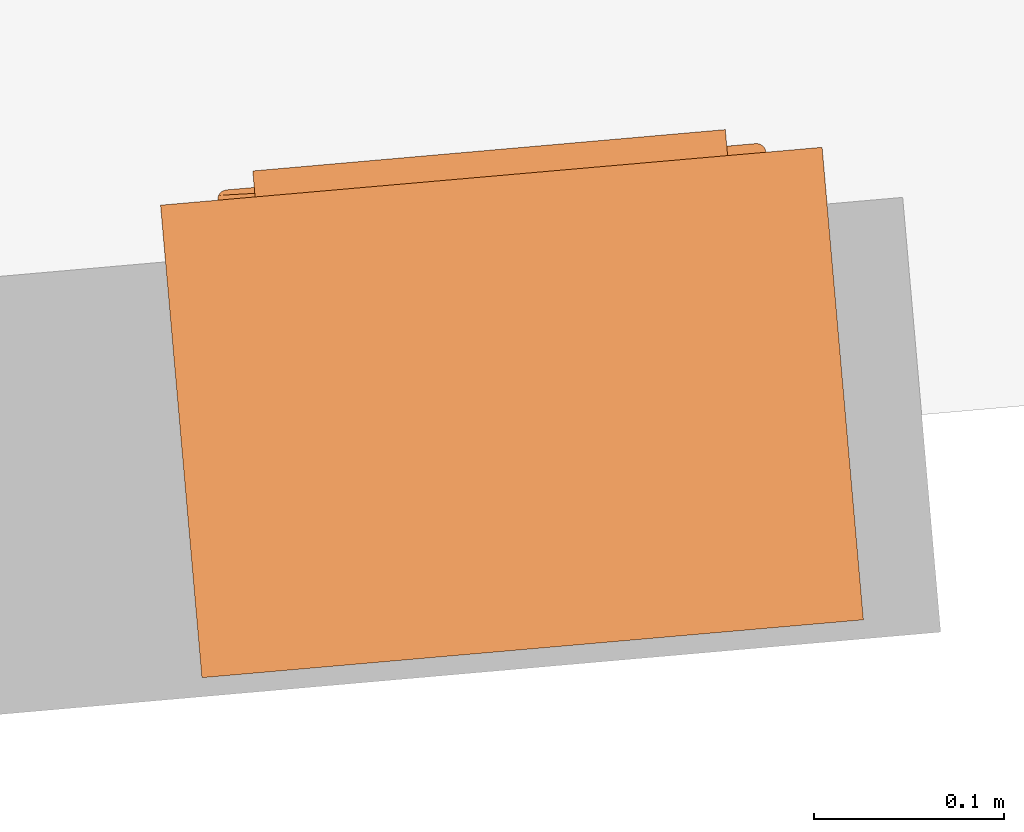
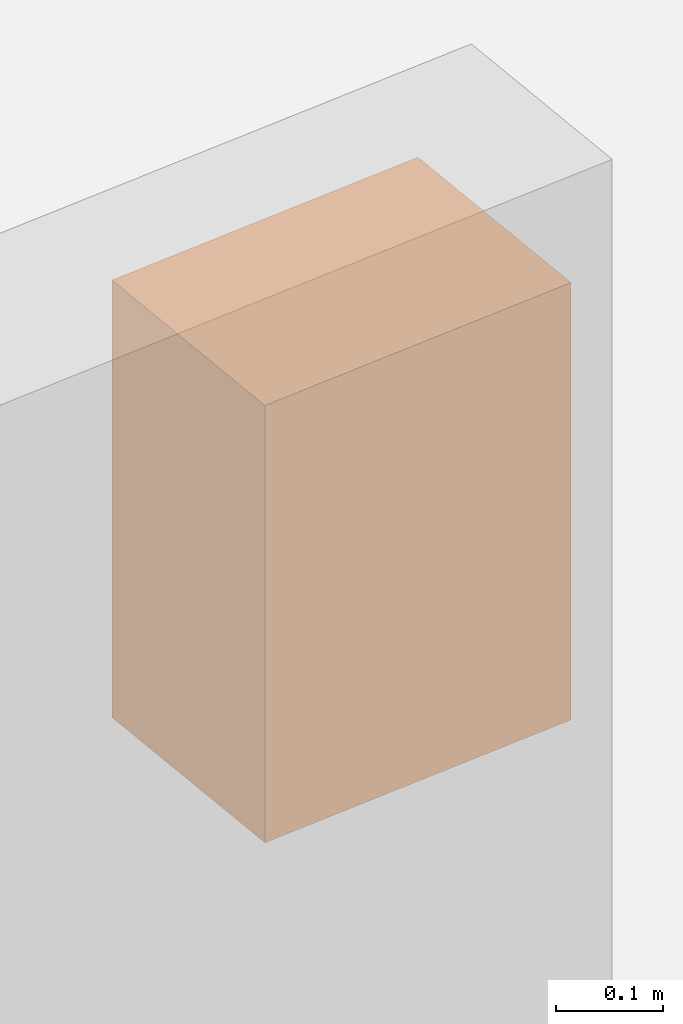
# One storey, part 33 of 33: 1 proxy.
"""IFC2X3 building model written with IfcOpenShell, lengths in metres."""

from ifc_helpers import new_model, entity, si_unit, converted_unit, derived_unit, direction, frame, origin, place, context, subcontext, project, spatial, faceted_brep, source, transform, mapped, material, material_list, element, save


model = new_model("IFC2X3")

# Units and contexts
model_context = context("Model", 3, precision=1e-05, world=origin(), true_north=direction((6.12303176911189e-17, 1.0)))
context_of_model = context(None, 3, precision=1e-05, world=origin(), true_north=direction((6.12303176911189e-17, 1.0)))
body_context = subcontext(model_context, "Body", "Model", "MODEL_VIEW")
ifc_project = project(units=[si_unit("LENGTHUNIT", "METRE"), si_unit("AREAUNIT", "SQUARE_METRE"), si_unit("VOLUMEUNIT", "CUBIC_METRE"), converted_unit("PLANEANGLEUNIT", "DEGREE", entity("IfcRatioMeasure", 0.0174532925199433), si_unit("PLANEANGLEUNIT", "RADIAN"), dimensions=[0, 0, 0, 0, 0, 0, 0]), si_unit("MASSUNIT", "GRAM", prefix="KILO"), si_unit("TIMEUNIT", "SECOND"), si_unit("FREQUENCYUNIT", "HERTZ"), si_unit("THERMODYNAMICTEMPERATUREUNIT", "DEGREE_CELSIUS"), derived_unit("THERMALTRANSMITTANCEUNIT", [(si_unit("MASSUNIT", "GRAM", prefix="KILO"), 1), (si_unit("THERMODYNAMICTEMPERATUREUNIT", "KELVIN"), -1), (si_unit("TIMEUNIT", "SECOND"), -3)]), derived_unit("VOLUMETRICFLOWRATEUNIT", [(si_unit("LENGTHUNIT", "METRE"), 3), (si_unit("TIMEUNIT", "SECOND"), -1)]), si_unit("ELECTRICCURRENTUNIT", "AMPERE"), si_unit("ELECTRICVOLTAGEUNIT", "VOLT"), si_unit("POWERUNIT", "WATT"), si_unit("FORCEUNIT", "NEWTON", prefix="KILO"), si_unit("ILLUMINANCEUNIT", "LUX"), si_unit("LUMINOUSFLUXUNIT", "LUMEN"), si_unit("LUMINOUSINTENSITYUNIT", "CANDELA"), si_unit("PRESSUREUNIT", "PASCAL")], contexts=[model_context, context_of_model])

# Site, building, storey
site_placement = place(None, origin())
site = spatial("IfcSite", under=ifc_project, at=site_placement, Name="Surface", CompositionType="ELEMENT")
building_placement = place(site_placement, origin())
building = spatial("IfcBuilding", under=site, at=building_placement, CompositionType="ELEMENT")
storey_placement = place(building_placement, origin())
storey = spatial("IfcBuildingStorey", under=building, at=storey_placement, Name="Plan des fondations  Maisons 1 et 2", CompositionType="ELEMENT", Elevation=0.0)

# Proxy
ifc_material_1 = material(Name="Peinture - Noir brillant")
ifc_material_2 = material(Name="Peinture - Gris")
ifc_material_list = material_list([ifc_material_1, ifc_material_2])
shared_shape = source(origin(), body_context, "Body", "Brep", [
    faceted_brep([(0.0397134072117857, 0.0137388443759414, 0.0549999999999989), (0.0397134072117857, 0.0137388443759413, 0.133076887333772), (0.0395430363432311, 0.0124447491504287, 0.0548296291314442), (0.0397134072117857, 0.0137388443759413, 0.280961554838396), (0.0397134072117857, 0.0137388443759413, 0.320000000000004), (0.0395430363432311, 0.0124447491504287, 0.320170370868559), (0.0347134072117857, 0.0087388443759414, 0.325000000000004), (0.0334193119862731, 0.00890921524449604, 0.326294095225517), (0.0343532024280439, 0.00875183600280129, 0.272372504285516), (0.0397134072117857, 0.0137388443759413, 0.211153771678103), (0.0343715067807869, 0.00875054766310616, 0.155288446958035), (0.0297134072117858, 0.0137388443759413, 0.251923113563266), (0.0303832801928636, 0.0112388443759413, 0.329330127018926), (0.0372134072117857, 0.00940871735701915, 0.322500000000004), (0.0360075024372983, 0.00890921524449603, 0.323705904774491), (0.0298837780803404, 0.0124447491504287, 0.329829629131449), (0.0297134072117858, 0.0137388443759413, 0.330000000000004), (0.0297134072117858, 0.0137388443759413, 0.123076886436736), (0.0297134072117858, 0.0137388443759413, 0.0449999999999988), (0.0298837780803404, 0.0124447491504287, 0.0451703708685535), (0.0382489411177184, 0.0102033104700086, 0.321464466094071), (0.0303832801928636, 0.0112388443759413, 0.0456698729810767), (0.0297134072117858, 0.0137388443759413, 0.187499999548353), (0.0341085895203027, 0.00877555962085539, 0.219711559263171), (0.0357268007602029, 0.00884261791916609, 0.10372298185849), (0.0334193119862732, 0.00890921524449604, 0.0487059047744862), (0.0347134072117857, 0.0087388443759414, 0.0499999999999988), (0.0311778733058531, 0.0102033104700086, 0.0464644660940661), (0.0322134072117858, 0.00940871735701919, 0.327500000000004), (0.0390435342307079, 0.0112388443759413, 0.320669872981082), (0.031177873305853, 0.0102033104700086, 0.328535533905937), (0.0360075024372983, 0.00890921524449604, 0.0512940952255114), (0.0372134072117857, 0.00940871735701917, 0.0524999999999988), (0.0382489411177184, 0.0102033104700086, 0.0535355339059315), (0.0390435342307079, 0.0112388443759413, 0.054330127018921), (0.0322134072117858, 0.00940871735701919, 0.0474999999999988), (0.117790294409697, 0.0137388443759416, 0.320000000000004), (0.231636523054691, 0.0137388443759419, 0.320000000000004), (0.309713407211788, 0.0137388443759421, 0.320000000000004), (0.309883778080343, 0.0124447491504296, 0.320170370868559), (0.314713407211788, 0.00873884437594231, 0.325000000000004), (0.316007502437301, 0.00890921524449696, 0.326294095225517), (0.264257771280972, 0.00874896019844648, 0.325317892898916), (0.150971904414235, 0.00875025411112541, 0.324662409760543), (0.21375185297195, 0.00874712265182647, 0.32528760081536), (0.174713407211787, 0.0137388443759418, 0.330000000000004), (0.0933594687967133, 0.00876574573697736, 0.324482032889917), (0.107790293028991, 0.0137388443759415, 0.330000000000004), (0.313419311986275, 0.00890921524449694, 0.323705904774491), (0.312213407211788, 0.00940871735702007, 0.322500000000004), (0.241636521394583, 0.013738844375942, 0.330000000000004), (0.319543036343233, 0.0124447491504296, 0.329829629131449), (0.319713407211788, 0.0137388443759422, 0.330000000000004), (0.317213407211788, 0.0094087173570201, 0.327500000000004), (0.310383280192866, 0.0112388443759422, 0.320669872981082), (0.318248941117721, 0.0102033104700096, 0.328535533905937), (0.31904353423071, 0.0112388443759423, 0.329330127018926), (0.311177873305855, 0.0102033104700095, 0.321464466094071), (0.195867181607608, 0.0137388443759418, 0.320000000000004), (0.309713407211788, 0.0137388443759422, 0.241923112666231), (0.309713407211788, 0.0137388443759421, 0.0940384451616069), (0.309713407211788, 0.0137388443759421, 0.0549999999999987), (0.309883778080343, 0.0124447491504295, 0.0548296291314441), (0.314713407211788, 0.00873884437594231, 0.0499999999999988), (0.316007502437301, 0.00890921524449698, 0.0487059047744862), (0.31507361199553, 0.0087518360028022, 0.102627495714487), (0.309713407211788, 0.0137388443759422, 0.1638462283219), (0.315055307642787, 0.00875054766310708, 0.219711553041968), (0.319713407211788, 0.0137388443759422, 0.123076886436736), (0.31904353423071, 0.0112388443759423, 0.0456698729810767), (0.312213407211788, 0.00940871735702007, 0.0524999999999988), (0.313419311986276, 0.00890921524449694, 0.0512940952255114), (0.319543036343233, 0.0124447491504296, 0.0451703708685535), (0.319713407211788, 0.0137388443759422, 0.0449999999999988), (0.319713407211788, 0.0137388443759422, 0.251923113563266), (0.311177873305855, 0.0102033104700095, 0.0535355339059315), (0.319713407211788, 0.0137388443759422, 0.187499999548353), (0.315318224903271, 0.00877555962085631, 0.155288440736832), (0.313700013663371, 0.008842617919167, 0.271277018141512), (0.317213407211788, 0.00940871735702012, 0.0474999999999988), (0.310383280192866, 0.0112388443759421, 0.0543301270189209), (0.318248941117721, 0.0102033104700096, 0.0464644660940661), (0.231636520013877, 0.0137388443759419, 0.0549999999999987), (0.153559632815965, 0.0137388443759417, 0.0549999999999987), (0.117790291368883, 0.0137388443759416, 0.0549999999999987), (0.241636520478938, 0.013738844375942, 0.0449999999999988), (0.174713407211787, 0.0137388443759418, 0.0449999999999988), (0.107790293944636, 0.0137388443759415, 0.0449999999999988), (0.0851690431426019, 0.0087489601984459, 0.0496821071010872), (0.198454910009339, 0.00875025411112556, 0.0503375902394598), (0.135674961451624, 0.00874712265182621, 0.049712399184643), (0.256067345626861, 0.00876574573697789, 0.0505179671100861)], [[[0, 1, 2]], [[3, 4, 5]], [[6, 7, 8]], [[1, 9, 10]], [[11, 8, 12]], [[13, 14, 8]], [[11, 15, 16]], [[17, 18, 19]], [[13, 8, 20]], [[17, 19, 21]], [[10, 22, 17]], [[8, 11, 23]], [[24, 25, 26]], [[21, 27, 17]], [[9, 23, 10]], [[7, 28, 8]], [[24, 2, 1]], [[29, 3, 5]], [[20, 3, 29]], [[8, 30, 12]], [[31, 32, 24]], [[33, 34, 24]], [[3, 8, 9]], [[10, 24, 1]], [[9, 8, 23]], [[31, 24, 26]], [[27, 24, 17]], [[22, 23, 11]], [[32, 33, 24]], [[30, 8, 28]], [[34, 2, 24]], [[15, 11, 12]], [[24, 35, 25]], [[17, 24, 10]], [[23, 22, 10]], [[27, 35, 24]], [[8, 14, 6]], [[3, 20, 8]], [[4, 36, 5]], [[37, 38, 39]], [[40, 41, 42]], [[43, 44, 45]], [[46, 43, 47]], [[48, 42, 49]], [[50, 51, 52]], [[47, 16, 15]], [[42, 44, 37]], [[47, 15, 12]], [[47, 43, 45]], [[14, 46, 6]], [[36, 43, 46]], [[12, 30, 47]], [[36, 46, 5]], [[41, 53, 42]], [[44, 50, 45]], [[54, 37, 39]], [[54, 42, 37]], [[42, 55, 56]], [[46, 13, 20]], [[20, 29, 46]], [[42, 57, 49]], [[50, 42, 56]], [[37, 44, 58]], [[42, 50, 44]], [[42, 48, 40]], [[46, 47, 30]], [[13, 46, 14]], [[55, 42, 53]], [[29, 5, 46]], [[51, 50, 56]], [[46, 28, 7]], [[7, 6, 46]], [[36, 58, 43]], [[30, 28, 46]], [[44, 43, 58]], [[42, 54, 57]], [[38, 59, 39]], [[60, 61, 62]], [[63, 64, 65]], [[59, 66, 67]], [[68, 65, 69]], [[70, 71, 65]], [[68, 72, 73]], [[74, 52, 51]], [[70, 65, 75]], [[74, 51, 56]], [[67, 76, 74]], [[65, 68, 77]], [[78, 41, 40]], [[56, 55, 74]], [[66, 77, 67]], [[64, 79, 65]], [[78, 39, 59]], [[80, 60, 62]], [[75, 60, 80]], [[65, 81, 69]], [[48, 49, 78]], [[57, 54, 78]], [[60, 65, 66]], [[67, 78, 59]], [[66, 65, 77]], [[48, 78, 40]], [[55, 78, 74]], [[76, 77, 68]], [[49, 57, 78]], [[81, 65, 79]], [[54, 39, 78]], [[72, 68, 69]], [[78, 53, 41]], [[74, 78, 67]], [[77, 76, 67]], [[55, 53, 78]], [[65, 71, 63]], [[60, 75, 65]], [[52, 61, 60]], [[61, 52, 74]], [[52, 60, 66]], [[52, 66, 59]], [[52, 59, 38]], [[52, 38, 37]], [[52, 37, 58]], [[52, 58, 36]], [[52, 36, 4]], [[4, 50, 52]], [[61, 74, 76]], [[61, 76, 68]], [[61, 68, 73]], [[73, 82, 61]], [[73, 83, 82]], [[73, 84, 83]], [[73, 0, 84]], [[0, 73, 85]], [[0, 85, 86]], [[0, 86, 87]], [[0, 87, 18]], [[0, 18, 17]], [[0, 17, 22]], [[0, 22, 11]], [[0, 11, 16]], [[16, 4, 3]], [[4, 16, 47]], [[16, 3, 9]], [[16, 9, 1]], [[16, 1, 0]], [[4, 47, 45]], [[4, 45, 50]], [[61, 82, 62]], [[84, 0, 2]], [[26, 25, 88]], [[89, 90, 86]], [[91, 89, 85]], [[31, 88, 32]], [[87, 19, 18]], [[85, 73, 72]], [[88, 90, 84]], [[85, 72, 69]], [[85, 89, 86]], [[71, 91, 63]], [[82, 89, 91]], [[69, 81, 85]], [[82, 91, 62]], [[25, 35, 88]], [[90, 87, 86]], [[34, 84, 2]], [[34, 88, 84]], [[88, 27, 21]], [[91, 70, 75]], [[75, 80, 91]], [[88, 33, 32]], [[87, 88, 21]], [[84, 90, 83]], [[88, 87, 90]], [[88, 31, 26]], [[91, 85, 81]], [[70, 91, 71]], [[27, 88, 35]], [[80, 62, 91]], [[19, 87, 21]], [[91, 79, 64]], [[64, 63, 91]], [[82, 83, 89]], [[81, 79, 91]], [[90, 89, 83]], [[88, 34, 33]]]),
    faceted_brep([(0.35, 0.263738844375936, 0.500000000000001), (0.0, 0.263738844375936, 0.500000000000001), (0.0, 0.0137388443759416, 0.500000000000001), (0.35, 0.0137388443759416, 0.500000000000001), (0.35, 0.263738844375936, 0.0), (0.35, 0.0137388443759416, 0.0), (0.0, 0.0137388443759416, 0.0), (0.0, 0.263738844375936, 0.0), (0.300000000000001, 0.0137388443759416, 0.399999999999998), (0.300000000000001, 0.0137388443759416, 0.390317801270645), (0.300000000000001, 0.0137388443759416, 0.350000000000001), (0.0500000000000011, 0.0137388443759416, 0.350000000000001), (0.0500000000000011, 0.0137388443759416, 0.390317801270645), (0.0500000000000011, 0.0137388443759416, 0.399999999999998), (0.340000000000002, 0.253738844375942, 0.489999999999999), (0.340000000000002, 0.0237388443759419, 0.489999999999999), (0.010000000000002, 0.0237388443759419, 0.489999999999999), (0.010000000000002, 0.253738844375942, 0.489999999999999), (0.340000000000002, 0.253738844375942, 0.0100000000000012), (0.010000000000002, 0.253738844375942, 0.0100000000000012), (0.010000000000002, 0.0237388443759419, 0.0100000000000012), (0.340000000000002, 0.0237388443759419, 0.0100000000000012), (0.0500000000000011, 0.0237388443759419, 0.350000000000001), (0.300000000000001, 0.0237388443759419, 0.350000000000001), (0.300000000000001, 0.0237388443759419, 0.399999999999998), (0.0500000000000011, 0.0237388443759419, 0.399999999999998)], [[[0, 1, 2, 3]], [[4, 5, 6, 7]], [[3, 5, 4, 0]], [[2, 6, 5, 3], [8, 9, 10, 11, 12, 13]], [[1, 7, 6, 2]], [[0, 4, 7, 1]], [[14, 15, 16, 17]], [[18, 19, 20, 21]], [[14, 18, 21, 15]], [[15, 21, 20, 16], [22, 23, 24, 25]], [[16, 20, 19, 17]], [[17, 19, 18, 14]], [[13, 12, 11, 22, 25]], [[25, 24, 8, 13]], [[24, 23, 10, 9, 8]], [[11, 10, 23, 22]]]),
    faceted_brep([(0.300000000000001, 0.0, 0.351924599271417), (0.300000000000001, 0.00255803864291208, 0.351193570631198), (0.300000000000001, 0.0137388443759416, 0.390317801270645), (0.300000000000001, 0.0137388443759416, 0.399999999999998), (0.0500000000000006, 0.0, 0.351924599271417), (0.0500000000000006, 0.0137388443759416, 0.399999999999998), (0.0500000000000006, 0.0137388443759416, 0.390317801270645), (0.0500000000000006, 0.00255803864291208, 0.351193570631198)], [[[0, 1, 2, 3]], [[4, 5, 6, 7]], [[1, 7, 6, 2]], [[2, 6, 5, 3]], [[3, 5, 4, 0]], [[0, 4, 7, 1]]]),
])
proxy_placement = place(storey_placement, frame((72.1346521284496, 66.2511756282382, 0.787401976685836), z_axis=(0.0, 0.0, 1.0), x_axis=(-0.996194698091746, -0.0871557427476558, 0.0)))
element("IfcBuildingElementProxy", 1, at=proxy_placement, inside=storey, material=ifc_material_list, Name="Boîte aux lettres encastrée:350mm x 500mm  beige", ObjectType="350mm x 500mm  beige", context=body_context, shape_type="MappedRepresentation", body=[
    mapped(shared_shape, transform((0.0, 0.0, 0.0), scale=1.0)),
])

save(model, "model.ifc")
